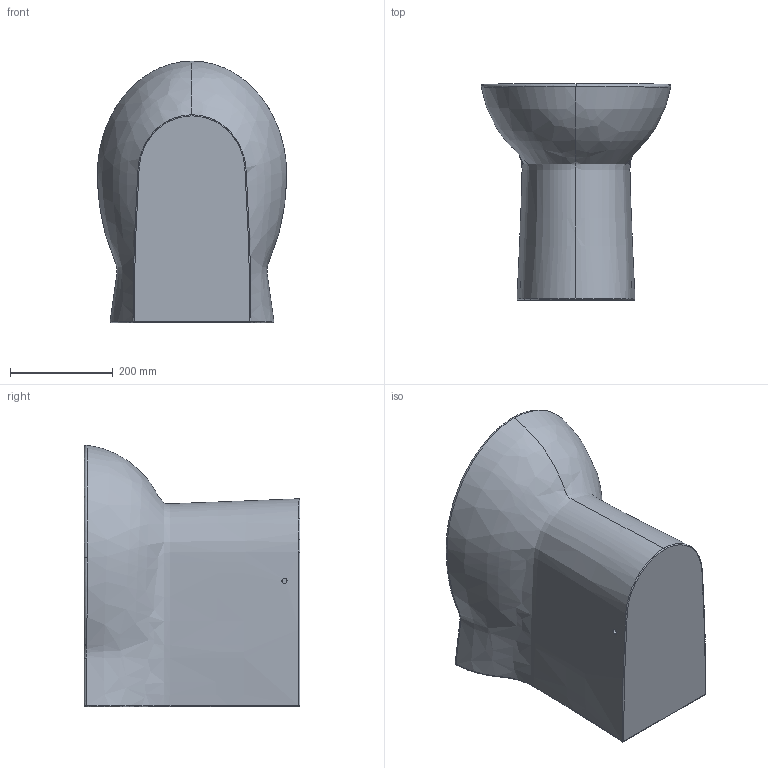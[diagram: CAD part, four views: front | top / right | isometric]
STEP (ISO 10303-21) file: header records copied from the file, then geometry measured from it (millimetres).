
FILE_DESCRIPTION (( 'STEP AP203' ), '1' );
FILE_NAME ('FABIT000000M.STEP', '2019-05-22T13:25:03', ( '' ), ( '' ), 'SwSTEP 2.0', 'SolidWorks 2019', '' );
FILE_SCHEMA (( 'CONFIG_CONTROL_DESIGN' ));
Length unit declared in the file: millimetre
Products named in the file (1): FABIT000000M
Bounding box: 368.49 x 420 x 509.4 mm (x, y, z)
Volume: 32686379 mm3; surface area: 861494.7 mm2
Topology: 1 solids, 1 shells, 46 faces, 103 edges, 62 vertices
Faces by surface type: bspline 24, cylinder 10, plane 8, cone 2, sphere 2
Entity records: 9129 total; most frequent: CARTESIAN_POINT 8191, ORIENTED_EDGE 202, DIRECTION 140, EDGE_CURVE 101, AXIS2_PLACEMENT_3D 63, VERTEX_POINT 62, EDGE_LOOP 51, B_SPLINE_CURVE_WITH_KNOTS 47
